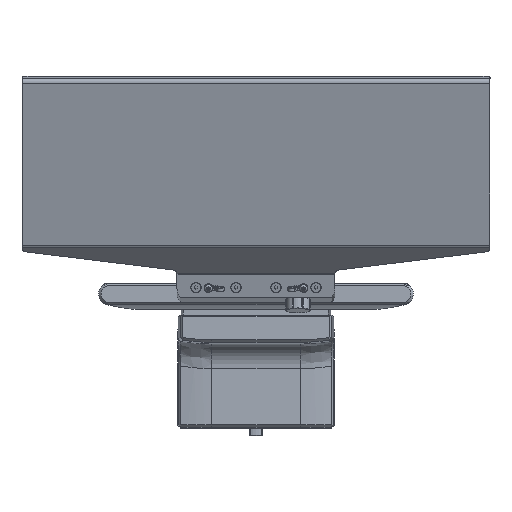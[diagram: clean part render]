
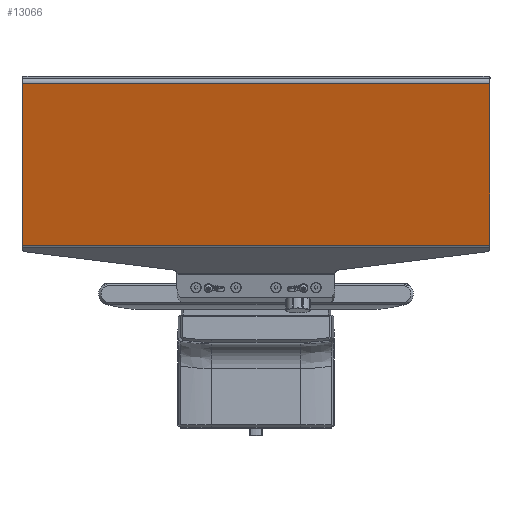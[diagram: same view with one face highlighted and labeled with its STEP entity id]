
A CAD part, front view. The second image highlights one B-rep face of the part: STEP entity #13066.
In plain terms, the highlighted planar face has unit normal (0, -0.966, -0.259).
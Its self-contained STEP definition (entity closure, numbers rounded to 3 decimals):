
#1005=LINE('',#20779,#2131);
#1006=LINE('',#20784,#2132);
#1008=LINE('',#20788,#2134);
#1009=LINE('',#20789,#2135);
#2131=VECTOR('',#16102,468.);
#2132=VECTOR('',#16109,167.167);
#2134=VECTOR('',#16113,167.167);
#2135=VECTOR('',#16114,468.);
#3387=FACE_OUTER_BOUND('',#4172,.T.);
#4172=EDGE_LOOP('',(#9662,#9663,#9664,#9665));
#5507=VERTEX_POINT('',#20632);
#5510=VERTEX_POINT('',#20640);
#5545=VERTEX_POINT('',#20783);
#5546=VERTEX_POINT('',#20787);
#7014=EDGE_CURVE('',#5507,#5510,#1005,.T.);
#7015=EDGE_CURVE('',#5507,#5545,#1006,.T.);
#7017=EDGE_CURVE('',#5546,#5510,#1008,.T.);
#7018=EDGE_CURVE('',#5546,#5545,#1009,.T.);
#9662=ORIENTED_EDGE('',*,*,#7014,.T.);
#9663=ORIENTED_EDGE('',*,*,#7017,.F.);
#9664=ORIENTED_EDGE('',*,*,#7018,.T.);
#9665=ORIENTED_EDGE('',*,*,#7015,.F.);
#11859=PLANE('',#13991);
#13066=ADVANCED_FACE('',(#3387),#11859,.T.);
#13991=AXIS2_PLACEMENT_3D('',#20786,#16111,#16112);
#16102=DIRECTION('',(1.,0.,0.));
#16109=DIRECTION('',(0.,-0.259,0.966));
#16111=DIRECTION('center_axis',(0.,-0.966,
-0.259));
#16112=DIRECTION('ref_axis',(0.,-0.259,0.966));
#16113=DIRECTION('',(0.,0.259,-0.966));
#16114=DIRECTION('',(-1.,0.,0.));
#20632=CARTESIAN_POINT('',(-234.,-192.35,51.377));
#20640=CARTESIAN_POINT('',(234.,-192.35,51.377));
#20779=CARTESIAN_POINT('',(-117.,-192.35,51.377));
#20783=CARTESIAN_POINT('',(-234.,-235.616,212.848));
#20784=CARTESIAN_POINT('',(-234.,-192.031,50.186));
#20786=CARTESIAN_POINT('Origin',(0.,-214.419,
133.739));
#20787=CARTESIAN_POINT('',(234.,-235.616,212.848));
#20788=CARTESIAN_POINT('',(234.,-236.807,217.292));
#20789=CARTESIAN_POINT('',(117.,-235.616,212.848));
